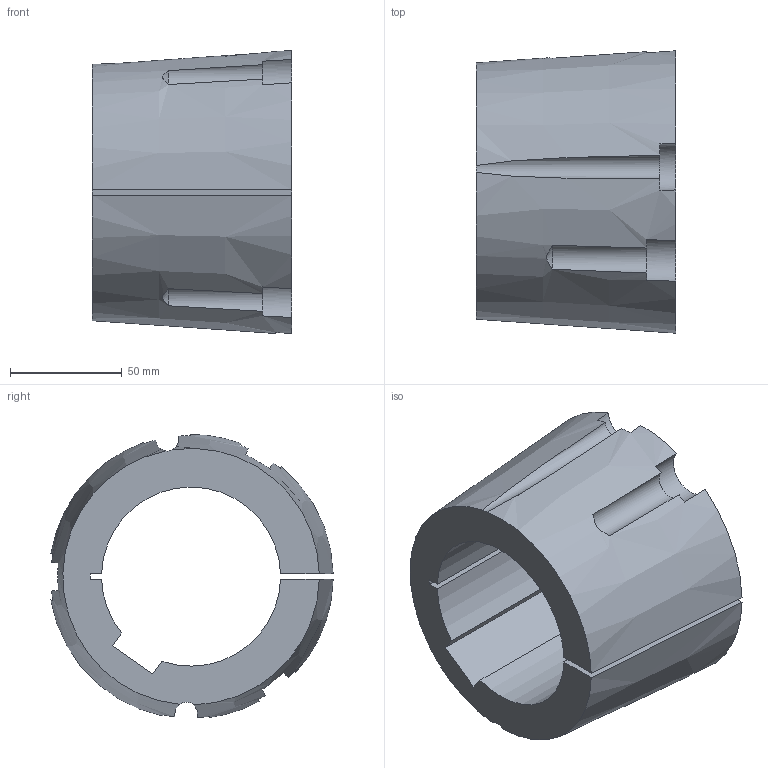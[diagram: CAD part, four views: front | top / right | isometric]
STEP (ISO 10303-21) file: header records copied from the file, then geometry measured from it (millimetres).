
FILE_DESCRIPTION( ( 'STEP AP203' ), '1' );
FILE_NAME( 'D:/export/antriebselemente/spannbuchsen_und_spannsaetze/taper-spannbuchsen_1008_bis_5050/taper-spannbuchsen_62251080Isometric_217.stp', '2018-12-11T11:11:28', ( '' ), ( '' ), ' ', 'PARTsolutions', ' ' );
FILE_SCHEMA( ( 'CONFIG_CONTROL_DESIGN' ) );
Length unit declared in the file: millimetre
Products named in the file (1): _taper-spannbuchsen_62251080
Bounding box: 89 x 126.13 x 126.46 mm (x, y, z)
Volume: 532979.2 mm3; surface area: 75750 mm2
Topology: 1 solids, 1 shells, 34 faces, 96 edges, 64 vertices
Faces by surface type: plane 15, cylinder 13, cone 6
Entity records: 1315 total; most frequent: CARTESIAN_POINT 391, ORIENTED_EDGE 192, DIRECTION 186, EDGE_CURVE 96, AXIS2_PLACEMENT_3D 80, VERTEX_POINT 64, CIRCLE 45, ADVANCED_FACE 34
